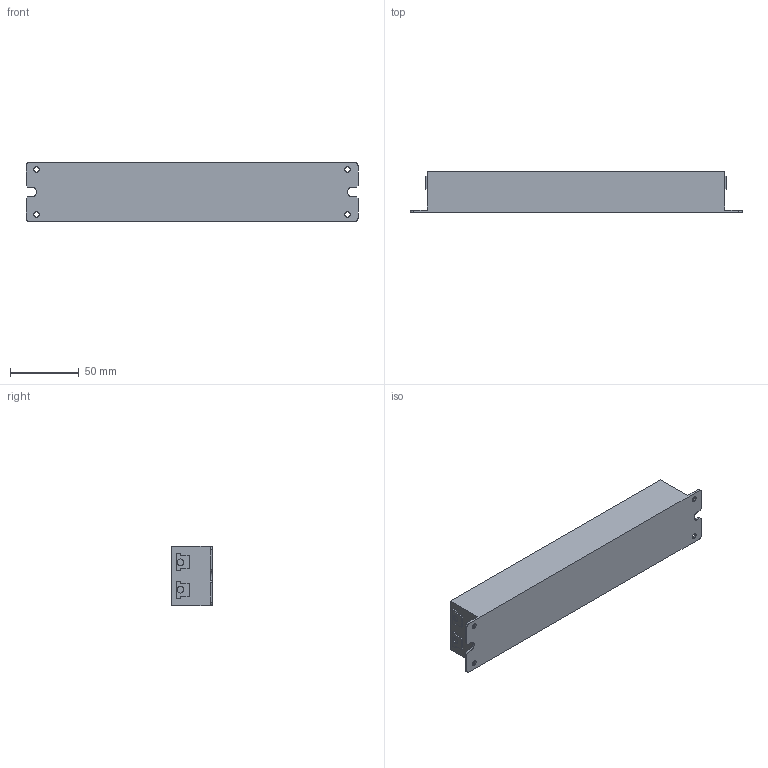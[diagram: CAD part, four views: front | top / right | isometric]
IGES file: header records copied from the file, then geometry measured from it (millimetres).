
Start section: SolidWorks IGES file using analytic representation for surfaces
Global section: file name: C:\Users\User One\Dropbox\AC_Electronics\10W\ACEG10I1555CPUS\ACEG10I1555CPUS.IGS; native system: SolidWorks 2026; preprocessor: SolidWorks 2026; author: User One; date: 260521.174139; units: inch
Bounding box: 241.3 x 29.46 x 43.18 mm (x, y, z)
Surface area: 37089.2 mm2 (no closed solid volume)
Topology: 0 solids, 0 shells, 458 faces, 6326 edges, 6326 vertices
Faces by surface type: bspline 434, revolution 24
